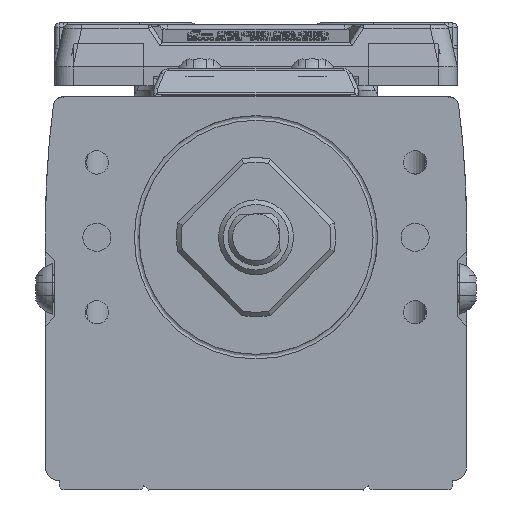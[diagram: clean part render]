
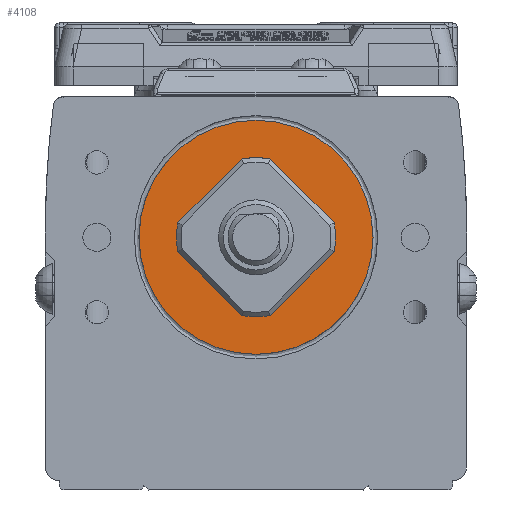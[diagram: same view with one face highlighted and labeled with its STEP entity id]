
A CAD part, left-side view. The second image highlights one B-rep face of the part: STEP entity #4108.
In plain terms, the highlighted planar face has unit normal (-1, 0, 0) as drawn and (0, 0, 1) by its records, which use the part's own axes.
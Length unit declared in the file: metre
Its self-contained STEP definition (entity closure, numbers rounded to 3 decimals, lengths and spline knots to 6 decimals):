
#4108=ADVANCED_FACE('',(#8368,#8369),#8370,.T.);
#8368=FACE_OUTER_BOUND('',#14832,.T.);
#8369=FACE_BOUND('',#14833,.T.);
#8370=PLANE('',#14834);
#14832=EDGE_LOOP('',(#25942));
#14833=EDGE_LOOP('',(#25943));
#14834=AXIS2_PLACEMENT_3D('',#25944,#25945,#25946);
#25942=ORIENTED_EDGE('',*,*,#29149,.T.);
#25943=ORIENTED_EDGE('',*,*,#32909,.F.);
#25944=CARTESIAN_POINT('',(0.000046,-0.005386,0.018));
#25945=DIRECTION('',(0.0,0.0,1.0));
#25946=DIRECTION('',(1.0,0.0,0.0));
#29149=EDGE_CURVE('',#34115,#34115,#34116,.T.);
#32909=EDGE_CURVE('',#39732,#39732,#39733,.T.);
#34115=VERTEX_POINT('',#41235);
#34116=CIRCLE('',#41236,0.0125);
#39732=VERTEX_POINT('',#49915);
#39733=CIRCLE('',#49916,0.004);
#41235=CARTESIAN_POINT('',(-0.0125,0.,0.018));
#41236=AXIS2_PLACEMENT_3D('',#51301,#51302,#51303);
#49915=CARTESIAN_POINT('',(0.004,0.0,0.018));
#49916=AXIS2_PLACEMENT_3D('',#55531,#55532,#55533);
#51301=CARTESIAN_POINT('',(0.0,0.,0.018));
#51302=DIRECTION('',(0.0,0.0,1.0));
#51303=DIRECTION('',(1.0,0.0,0.0));
#55531=CARTESIAN_POINT('',(0.0,0.0,0.018));
#55532=DIRECTION('',(0.0,0.0,1.0));
#55533=DIRECTION('',(-1.0,0.0,0.0));
